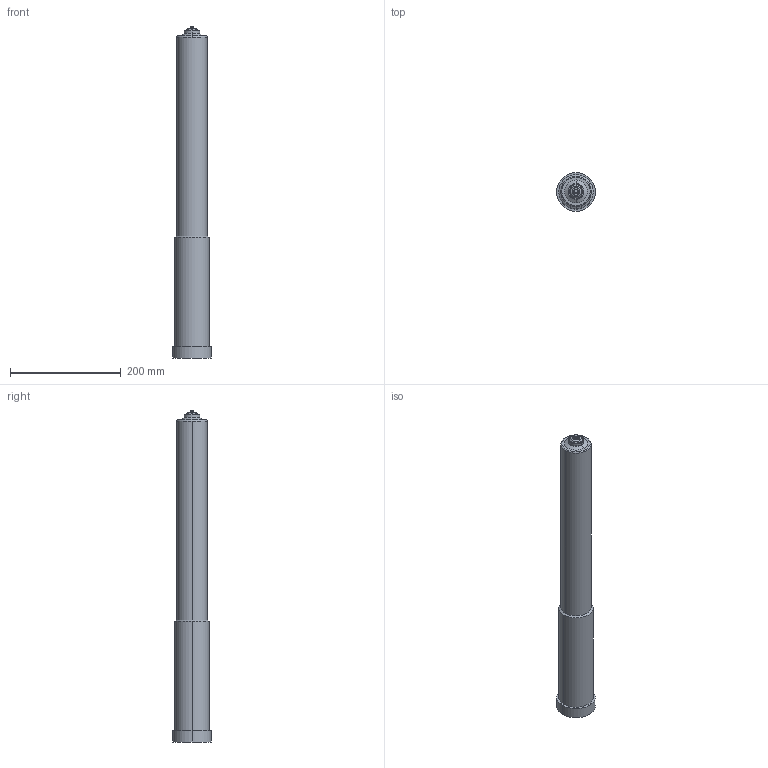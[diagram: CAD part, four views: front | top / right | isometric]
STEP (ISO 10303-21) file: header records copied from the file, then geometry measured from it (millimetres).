
FILE_DESCRIPTION (( 'STEP AP214' ), '1' );
FILE_NAME ('22E-06-600-VSW.STEP', '2022-01-10T08:56:03', ( '' ), ( '' ), 'SwSTEP 2.0', 'SolidWorks 2018', '' );
FILE_SCHEMA (( 'AUTOMOTIVE_DESIGN' ));
Length unit declared in the file: millimetre
Products named in the file (2): cutout_22E-06-600-VSW; 22E-06-600-VSW
Assembly tree (1 placements, depth 2):
  22E-06-600-VSW
    cutout_22E-06-600-VSW
Bounding box: 70 x 70 x 600 mm (x, y, z)
Volume: 1548587.1 mm3; surface area: 113888.3 mm2
Topology: 1 solids, 1 shells, 32 faces, 66 edges, 40 vertices
Faces by surface type: cylinder 10, cone 10, torus 6, plane 6
Entity records: 926 total; most frequent: DIRECTION 184, CARTESIAN_POINT 142, ORIENTED_EDGE 132, AXIS2_PLACEMENT_3D 82, EDGE_CURVE 66, CIRCLE 46, VERTEX_POINT 40, EDGE_LOOP 36
